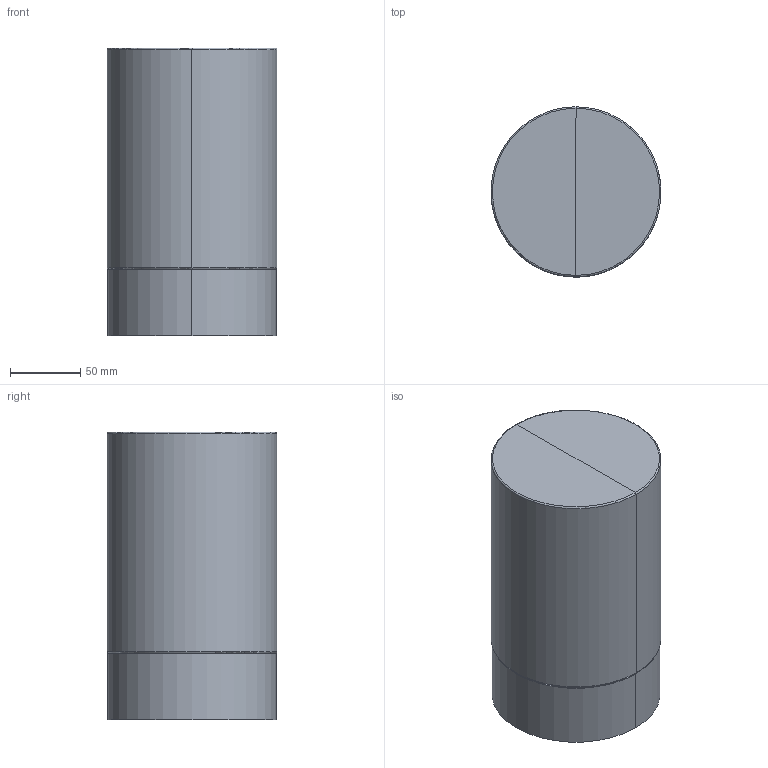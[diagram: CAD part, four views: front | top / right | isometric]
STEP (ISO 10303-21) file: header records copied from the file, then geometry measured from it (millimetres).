
FILE_DESCRIPTION(/* description */ (''),/* implementation_level */ '2;1');
FILE_NAME(/* name */ 'C:\Users\FrancoSartori\Documents\FARO\01_En Proceso\0000_2022\000_KILA\03_Publicación\CEILING.stp',/* time_stamp */ '2022-09-15T13:34:31+02:00',/* author */ ('FrancoSartori'),/* organization */ (''),/* preprocessor_version */ 'ST-DEVELOPER v19.2',/* originating_system */ 'AutoCAD Mechanical',/* authorisation */ '');
FILE_SCHEMA (('AUTOMOTIVE_DESIGN { 1 0 10303 214 3 1 1 }'));
Length unit declared in the file: millimetre
Products named in the file (2): Product; KILAC_ - LAMP-476765-Export
Assembly tree (1 placements, depth 2):
  Product
    KILAC_ - LAMP-476765-Export
Bounding box: 120.96 x 121 x 205 mm (x, y, z)
Volume: 659383.6 mm3; surface area: 237091.5 mm2
Topology: 6 solids, 6 shells, 118 faces, 272 edges, 168 vertices
Faces by surface type: cylinder 50, plane 46, torus 18, cone 4
Entity records: 4372 total; most frequent: CARTESIAN_POINT 1729, ORIENTED_EDGE 544, DIRECTION 516, EDGE_CURVE 272, AXIS2_PLACEMENT_3D 215, VERTEX_POINT 168, EDGE_LOOP 126, FACE_OUTER_BOUND 118
